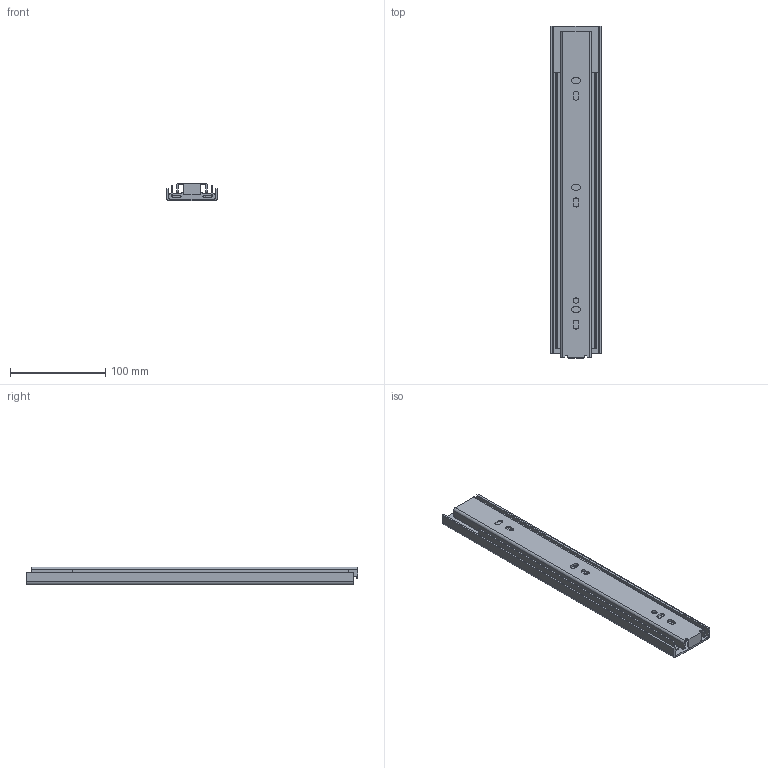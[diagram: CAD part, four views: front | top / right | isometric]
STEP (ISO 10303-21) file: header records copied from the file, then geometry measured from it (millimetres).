
FILE_DESCRIPTION((''),'2;1');
FILE_NAME('78A01_350_CLOSE_ASM','2020-09-01T15:15:21',('T170334'),(''),'CREO PARAMETRIC BY PTC INC, 2018260','CREO PARAMETRIC BY PTC INC, 2018260','');
FILE_SCHEMA(('CONFIG_CONTROL_DESIGN'));
Length unit declared in the file: millimetre
Products named in the file (5): OUT_350; MID_350; IN_350; MECHANISM_C; 78A01_350_CLOSE_ASM
Assembly tree (4 placements, depth 2):
  78A01_350_CLOSE_ASM
    OUT_350
    MID_350
    IN_350
    MECHANISM_C
Bounding box: 53.32 x 348 x 18.84 mm (x, y, z)
Volume: 124405.6 mm3; surface area: 130478.5 mm2
Topology: 4 solids, 4 shells, 154 faces, 434 edges, 288 vertices
Faces by surface type: plane 80, cylinder 74
Entity records: 5219 total; most frequent: CARTESIAN_POINT 929, DIRECTION 892, ORIENTED_EDGE 868, EDGE_CURVE 434, AXIS2_PLACEMENT_3D 303, VERTEX_POINT 288, VECTOR 286, LINE 286
